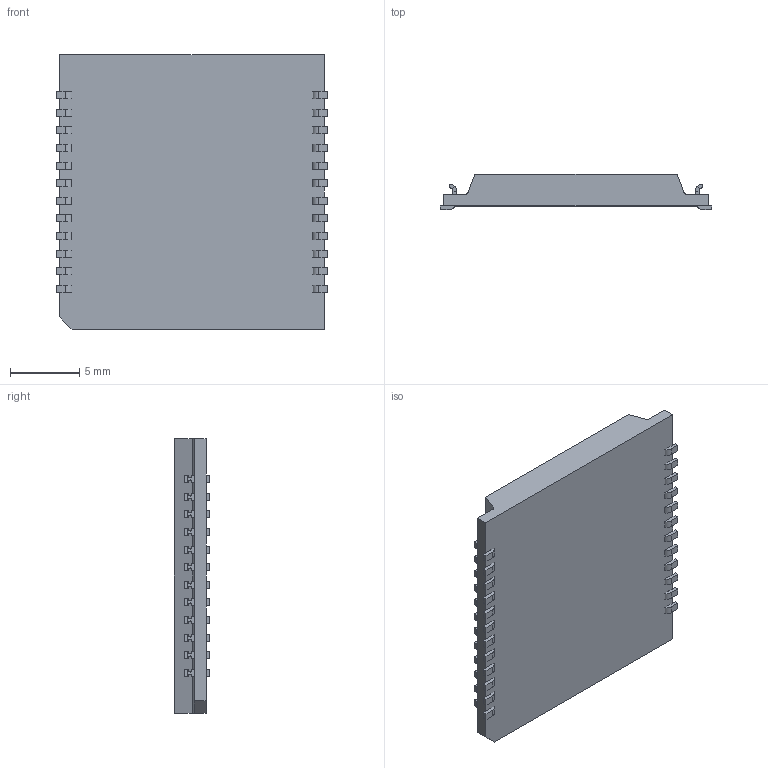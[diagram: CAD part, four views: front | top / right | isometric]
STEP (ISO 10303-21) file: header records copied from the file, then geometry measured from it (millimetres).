
FILE_DESCRIPTION (( 'STEP AP214' ), '1' );
FILE_NAME ('HX5019FNL_3D.STEP', '2018-06-25T03:05:49', ( '' ), ( '' ), 'SwSTEP 2.0', 'SolidWorks 2015', '' );
FILE_SCHEMA (( 'AUTOMOTIVE_DESIGN' ));
Length unit declared in the file: millimetre
Products named in the file (1): HX5019FNL_3D
Bounding box: 19.56 x 2.54 x 19.81 mm (x, y, z)
Volume: 757 mm3; surface area: 983.9 mm2
Topology: 13 solids, 13 shells, 529 faces, 1401 edges, 910 vertices
Faces by surface type: plane 435, cylinder 94
Entity records: 19516 total; most frequent: CARTESIAN_POINT 2841, ORIENTED_EDGE 2802, DIRECTION 2745, EDGE_CURVE 1401, VECTOR 1117, LINE 1117, VERTEX_POINT 910, AXIS2_PLACEMENT_3D 814
